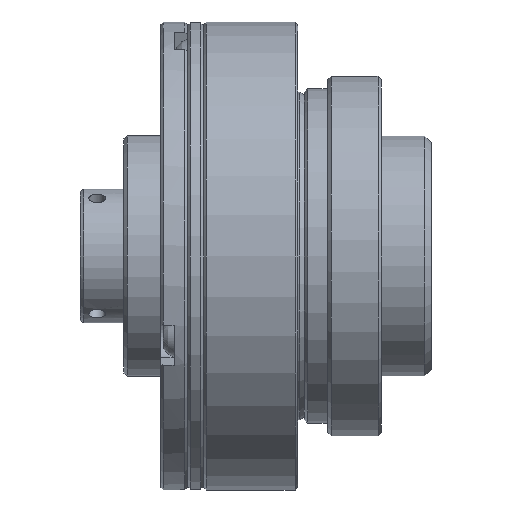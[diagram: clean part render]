
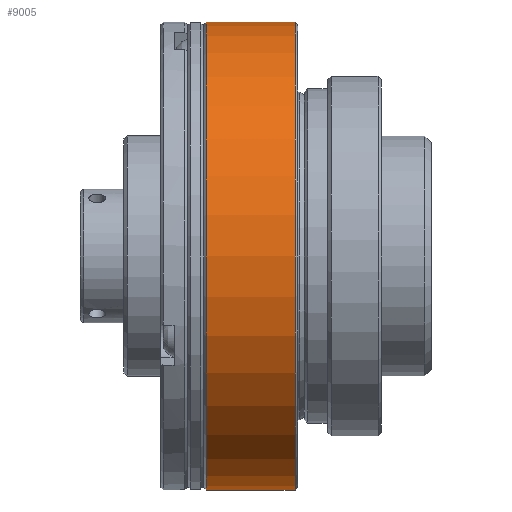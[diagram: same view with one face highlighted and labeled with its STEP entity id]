
A CAD part, front view. The second image highlights one B-rep face of the part: STEP entity #9005.
In plain terms, the highlighted cylindrical face has radius 35 mm (diameter 70 mm), a full revolution.
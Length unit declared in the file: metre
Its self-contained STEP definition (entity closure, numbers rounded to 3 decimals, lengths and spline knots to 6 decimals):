
#628 = CYLINDRICAL_SURFACE ( 'NONE', #19406, 0.035 ) ;
#1083 = FACE_OUTER_BOUND ( 'NONE', #1980, .T. ) ;
#1980 = EDGE_LOOP ( 'NONE', ( #22070 ) ) ;
#2339 = EDGE_CURVE ( 'NONE', #25895, #25895, #17537, .T. ) ;
#2577 = CARTESIAN_POINT ( 'NONE',  ( 0.0321, -0.035, 0. ) ) ;
#4197 = DIRECTION ( 'NONE',  ( 1., 0., 0. ) ) ;
#6000 = ORIENTED_EDGE ( 'NONE', *, *, #25602, .T. ) ;
#6752 = DIRECTION ( 'NONE',  ( -1., 0., 0. ) ) ;
#7803 = FACE_OUTER_BOUND ( 'NONE', #22522, .T. ) ;
#9005 = ADVANCED_FACE ( 'NONE', ( #7803, #1083 ), #628, .T. ) ;
#9587 = VERTEX_POINT ( 'NONE', #2577 ) ;
#12574 = CIRCLE ( 'NONE', #16556, 0.035 ) ;
#14788 = DIRECTION ( 'NONE',  ( -1., 0., 0. ) ) ;
#15412 = CARTESIAN_POINT ( 'NONE',  ( 0.010358, 0., 0. ) ) ;
#16235 = DIRECTION ( 'NONE',  ( 0., -1., 0. ) ) ;
#16556 = AXIS2_PLACEMENT_3D ( 'NONE', #28043, #6752, #16235 ) ;
#16978 = AXIS2_PLACEMENT_3D ( 'NONE', #22418, #4197, #24914 ) ;
#17537 = CIRCLE ( 'NONE', #16978, 0.035 ) ;
#19406 = AXIS2_PLACEMENT_3D ( 'NONE', #15412, #14788, #22560 ) ;
#22070 = ORIENTED_EDGE ( 'NONE', *, *, #2339, .T. ) ;
#22418 = CARTESIAN_POINT ( 'NONE',  ( 0.0188, 0., 0. ) ) ;
#22522 = EDGE_LOOP ( 'NONE', ( #6000 ) ) ;
#22560 = DIRECTION ( 'NONE',  ( 0., -1., 0. ) ) ;
#24914 = DIRECTION ( 'NONE',  ( 0., -1., 0. ) ) ;
#25602 = EDGE_CURVE ( 'NONE', #9587, #9587, #12574, .T. ) ;
#25895 = VERTEX_POINT ( 'NONE', #30262 ) ;
#28043 = CARTESIAN_POINT ( 'NONE',  ( 0.0321, 0., 0. ) ) ;
#30262 = CARTESIAN_POINT ( 'NONE',  ( 0.0188, -0.035, 0. ) ) ;
